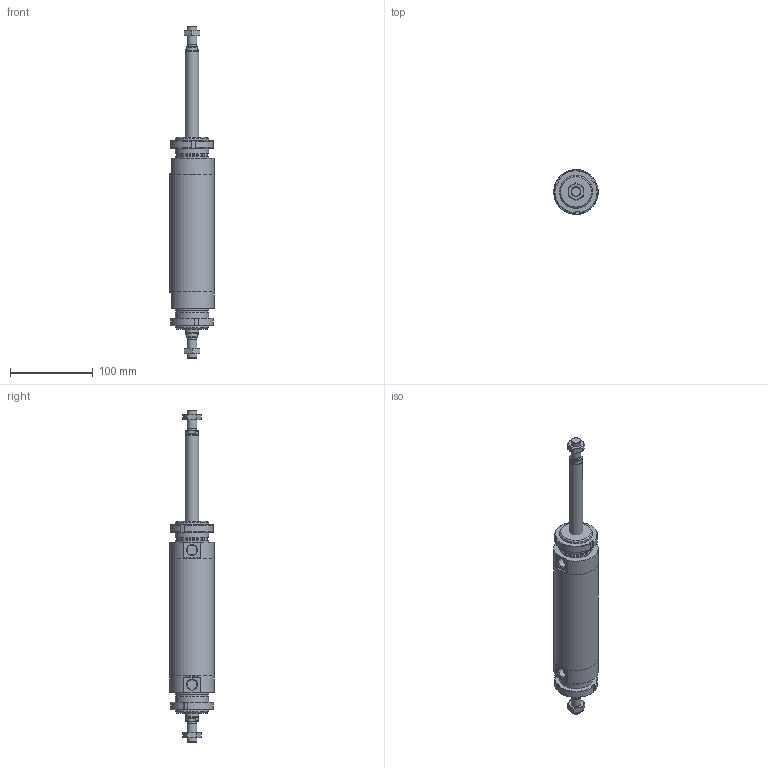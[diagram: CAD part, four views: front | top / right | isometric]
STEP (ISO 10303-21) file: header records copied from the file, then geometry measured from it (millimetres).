
FILE_DESCRIPTION(/* description */ (''),/* implementation_level */ '2;1');
FILE_NAME(/* name */ 'I:\Area Tecnica\Documenti\A-Manieri\_Inventor\12X\12X#S_###_####_#_#\12XCS_050_0100_#_#.stp',/* time_stamp */ '2015-05-08T14:18:45+02:00',/* author */ ('maniean1'),/* organization */ ('Pneumax S.p.A.'),/* preprocessor_version */ 'ST-DEVELOPER v15.2',/* originating_system */ 'Autodesk Inventor 2014',/* authorisation */ '');
FILE_SCHEMA (('AUTOMOTIVE_DESIGN { 1 0 10303 214 3 1 1 }'));
Length unit declared in the file: millimetre
Products named in the file (6): C1250_619-0100; 12X50_604; SP12X50_0100; 12X_50_11; G12X_050_05; 12XCS_050_0100_#_#
Bounding box: 54 x 54 x 402 mm (x, y, z)
Volume: 351226.1 mm3; surface area: 111768.3 mm2
Topology: 8 solids, 8 shells, 133 faces, 303 edges, 194 vertices
Faces by surface type: plane 66, cone 34, cylinder 33
Full cylindrical faces by diameter (mm): 10.2 x2, 11.4 x2, 12 x4, 14 x2, 15.6 x2, 16 x2, 38.2 x2, 40 x6, 50 x2, 54 x3
Entity records: 2300 total; most frequent: CARTESIAN_POINT 435, DIRECTION 388, ORIENTED_EDGE 310, AXIS2_PLACEMENT_3D 166, EDGE_CURVE 155, EDGE_LOOP 130, VERTEX_POINT 117, ADVANCED_FACE 85
